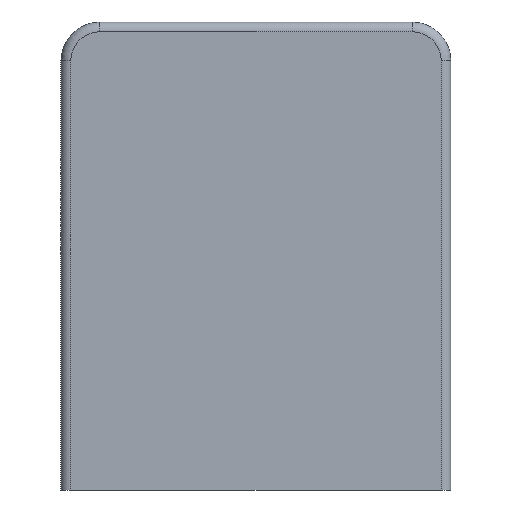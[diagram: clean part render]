
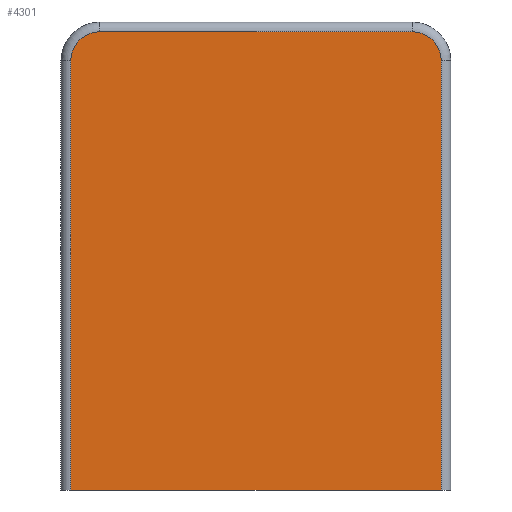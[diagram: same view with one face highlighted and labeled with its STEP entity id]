
A CAD part, front view. The second image highlights one B-rep face of the part: STEP entity #4301.
In plain terms, the highlighted planar face has unit normal (0, -1, 0).
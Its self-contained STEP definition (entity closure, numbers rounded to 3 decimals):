
#52=PLANE('',#4615);
#296=FACE_OUTER_BOUND('',#538,.T.);
#538=EDGE_LOOP('',(#3864,#3865,#3866,#3867,#3868,#3869));
#953=CIRCLE('',#4529,3.);
#957=CIRCLE('',#4535,3.);
#1170=LINE('',#11534,#1386);
#1171=LINE('',#11545,#1387);
#1173=LINE('',#11557,#1389);
#1186=LINE('',#11584,#1402);
#1386=VECTOR('',#5218,10.);
#1387=VECTOR('',#5231,10.);
#1389=VECTOR('',#5245,10.);
#1402=VECTOR('',#5272,10.);
#1817=VERTEX_POINT('',#11527);
#1820=VERTEX_POINT('',#11532);
#1822=VERTEX_POINT('',#11537);
#1824=VERTEX_POINT('',#11543);
#1826=VERTEX_POINT('',#11549);
#1828=VERTEX_POINT('',#11555);
#2414=EDGE_CURVE('',#1820,#1817,#1170,.T.);
#2416=EDGE_CURVE('',#1822,#1820,#953,.T.);
#2419=EDGE_CURVE('',#1824,#1822,#1171,.T.);
#2422=EDGE_CURVE('',#1826,#1824,#957,.T.);
#2425=EDGE_CURVE('',#1828,#1826,#1173,.T.);
#2440=EDGE_CURVE('',#1817,#1828,#1186,.T.);
#3864=ORIENTED_EDGE('',*,*,#2425,.F.);
#3865=ORIENTED_EDGE('',*,*,#2440,.F.);
#3866=ORIENTED_EDGE('',*,*,#2414,.F.);
#3867=ORIENTED_EDGE('',*,*,#2416,.F.);
#3868=ORIENTED_EDGE('',*,*,#2419,.F.);
#3869=ORIENTED_EDGE('',*,*,#2422,.F.);
#4301=ADVANCED_FACE('',(#296),#52,.F.);
#4529=AXIS2_PLACEMENT_3D('',#11539,#5223,#5224);
#4535=AXIS2_PLACEMENT_3D('',#11551,#5237,#5238);
#4615=AXIS2_PLACEMENT_3D('',#18175,#5432,#5433);
#5218=DIRECTION('',(0.,0.,-1.));
#5223=DIRECTION('center_axis',(0.,1.,0.));
#5224=DIRECTION('ref_axis',(0.707,0.,0.707));
#5231=DIRECTION('',(1.,0.,0.));
#5237=DIRECTION('center_axis',(0.,1.,0.));
#5238=DIRECTION('ref_axis',(-0.707,0.,0.707));
#5245=DIRECTION('',(0.,0.,1.));
#5272=DIRECTION('',(-1.,0.,0.));
#5432=DIRECTION('center_axis',(0.,1.,0.));
#5433=DIRECTION('ref_axis',(0.,0.,-1.));
#11527=CARTESIAN_POINT('',(39.,0.,0.));
#11532=CARTESIAN_POINT('',(39.,0.,44.));
#11534=CARTESIAN_POINT('',(39.,0.,4.));
#11537=CARTESIAN_POINT('',(36.,0.,47.));
#11539=CARTESIAN_POINT('Origin',(36.,0.,44.));
#11543=CARTESIAN_POINT('',(4.,0.,47.));
#11545=CARTESIAN_POINT('',(20.,0.,47.));
#11549=CARTESIAN_POINT('',(1.,0.,44.));
#11551=CARTESIAN_POINT('Origin',(4.,0.,44.));
#11555=CARTESIAN_POINT('',(1.,0.,0.));
#11557=CARTESIAN_POINT('',(1.,0.,4.));
#11584=CARTESIAN_POINT('',(20.,0.,0.));
#18175=CARTESIAN_POINT('Origin',(20.,0.,4.));
